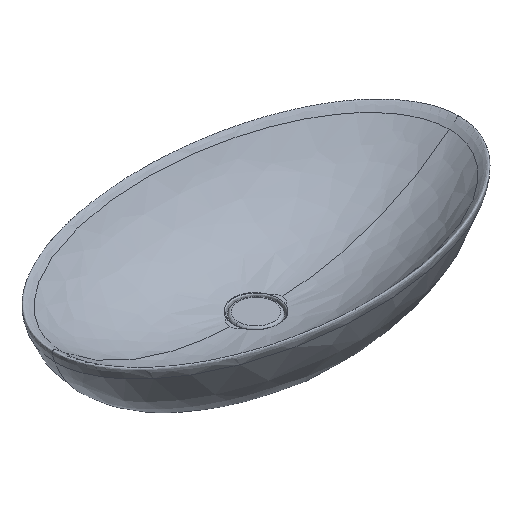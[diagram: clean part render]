
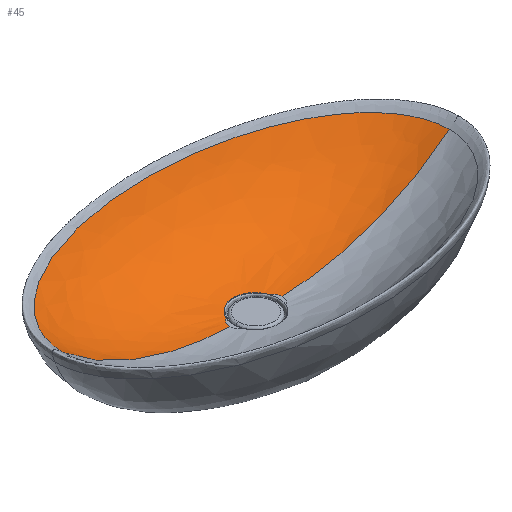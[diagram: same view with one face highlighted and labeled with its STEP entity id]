
A CAD part, isometric view. The second image highlights one B-rep face of the part: STEP entity #45.
In plain terms, the highlighted free-form (B-spline) face has degree [2, 3] with [5, 4] control points.
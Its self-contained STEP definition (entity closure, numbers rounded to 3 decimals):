
#45=ADVANCED_FACE('',(#63),#272,.T.);
#63=FACE_OUTER_BOUND('',#81,.T.);
#81=EDGE_LOOP('',(#133,#134,#135,#136,#137,#138,#139));
#133=ORIENTED_EDGE('',*,*,#187,.T.);
#134=ORIENTED_EDGE('',*,*,#193,.T.);
#135=ORIENTED_EDGE('',*,*,#175,.T.);
#136=ORIENTED_EDGE('',*,*,#176,.T.);
#137=ORIENTED_EDGE('',*,*,#170,.T.);
#138=ORIENTED_EDGE('',*,*,#178,.T.);
#139=ORIENTED_EDGE('',*,*,#186,.F.);
#170=EDGE_CURVE('',#247,#245,#203,.T.);
#175=EDGE_CURVE('',#250,#249,#215,.T.);
#176=EDGE_CURVE('',#249,#247,#216,.T.);
#178=EDGE_CURVE('',#245,#255,#218,.T.);
#186=EDGE_CURVE('',#254,#255,#225,.T.);
#187=EDGE_CURVE('',#254,#257,#226,.T.);
#193=EDGE_CURVE('',#257,#250,#231,.T.);
#203=B_SPLINE_CURVE_WITH_KNOTS('',3,(#1561,#1562,#1563,#1564,#1565,#1566,
#1567,#1568,#1569,#1570,#1571,#1572,#1573,#1574,#1575,#1576,#1577,#1578,
#1579,#1580,#1581,#1582,#1583,#1584,#1585,#1586,#1587,#1588,#1589,#1590,
#1591,#1592,#1593,#1594,#1595,#1596,#1597,#1598,#1599),.UNSPECIFIED.,.F.,
 .F.,(4,3,2,3,2,2,2,2,3,2,2,2,2,3,2,3,4),(0.,3.872,9.177,
14.483,18.353,22.223,29.967,37.712,
45.457,53.203,60.948,68.692,72.562,
76.432,81.738,87.043,90.915),
 .UNSPECIFIED.);
#215=(
BOUNDED_CURVE()
B_SPLINE_CURVE(3,(#1652,#1653,#1654,#1655),.UNSPECIFIED.,.F.,.F.)
B_SPLINE_CURVE_WITH_KNOTS((4,4),(38.313,65.694),
 .UNSPECIFIED.)
CURVE()
GEOMETRIC_REPRESENTATION_ITEM()
RATIONAL_B_SPLINE_CURVE((1.,0.957,0.957,1.))
REPRESENTATION_ITEM('')
);
#216=(
BOUNDED_CURVE()
B_SPLINE_CURVE(2,(#1656,#1657,#1658),.UNSPECIFIED.,.F.,.F.)
B_SPLINE_CURVE_WITH_KNOTS((3,3),(-6.283,-5.613),
 .UNSPECIFIED.)
CURVE()
GEOMETRIC_REPRESENTATION_ITEM()
RATIONAL_B_SPLINE_CURVE((1.,0.945,1.))
REPRESENTATION_ITEM('')
);
#218=(
BOUNDED_CURVE()
B_SPLINE_CURVE(2,(#1662,#1663,#1664),.UNSPECIFIED.,.F.,.F.)
B_SPLINE_CURVE_WITH_KNOTS((3,3),(-3.812,-3.142),
 .UNSPECIFIED.)
CURVE()
GEOMETRIC_REPRESENTATION_ITEM()
RATIONAL_B_SPLINE_CURVE((1.,0.945,1.))
REPRESENTATION_ITEM('')
);
#225=(
BOUNDED_CURVE()
B_SPLINE_CURVE(3,(#1705,#1706,#1707,#1708),.UNSPECIFIED.,.F.,.F.)
B_SPLINE_CURVE_WITH_KNOTS((4,4),(38.313,65.694),
 .UNSPECIFIED.)
CURVE()
GEOMETRIC_REPRESENTATION_ITEM()
RATIONAL_B_SPLINE_CURVE((1.,0.957,0.957,1.))
REPRESENTATION_ITEM('')
);
#226=(
BOUNDED_CURVE()
B_SPLINE_CURVE(2,(#1709,#1710,#1711),.UNSPECIFIED.,.F.,.F.)
B_SPLINE_CURVE_WITH_KNOTS((3,3),(3.142,3.142),
 .UNSPECIFIED.)
CURVE()
GEOMETRIC_REPRESENTATION_ITEM()
RATIONAL_B_SPLINE_CURVE((1.,1.,1.))
REPRESENTATION_ITEM('')
);
#231=(
BOUNDED_CURVE()
B_SPLINE_CURVE(2,(#1744,#1745,#1746,#1747,#1748),.UNSPECIFIED.,.F.,.F.)
B_SPLINE_CURVE_WITH_KNOTS((3,2,3),(3.142,4.712,6.283),
 .UNSPECIFIED.)
CURVE()
GEOMETRIC_REPRESENTATION_ITEM()
RATIONAL_B_SPLINE_CURVE((1.,0.707,1.,0.707,1.))
REPRESENTATION_ITEM('')
);
#245=VERTEX_POINT('',#1527);
#247=VERTEX_POINT('',#1529);
#249=VERTEX_POINT('',#1531);
#250=VERTEX_POINT('',#1532);
#254=VERTEX_POINT('',#1536);
#255=VERTEX_POINT('',#1537);
#257=VERTEX_POINT('',#1539);
#272=(
BOUNDED_SURFACE()
B_SPLINE_SURFACE(2,3,((#934,#935,#936,#937),(#938,#939,#940,#941),(#942,
#943,#944,#945),(#946,#947,#948,#949),(#950,#951,#952,#953)),
 .UNSPECIFIED.,.F.,.F.,.F.)
B_SPLINE_SURFACE_WITH_KNOTS((3,2,3),(4,4),(3.142,4.712,
6.283),(38.313,65.694),.UNSPECIFIED.)
GEOMETRIC_REPRESENTATION_ITEM()
RATIONAL_B_SPLINE_SURFACE(((1.,0.957,0.957,1.),
(0.707,0.677,0.677,0.707),
(1.,0.957,0.957,1.),(0.707,0.677,
0.677,0.707),(1.,0.957,0.957,
1.)))
REPRESENTATION_ITEM('')
SURFACE()
);
#934=CARTESIAN_POINT('',(335.651,0.,127.146));
#935=CARTESIAN_POINT('',(256.552,0.,61.071));
#936=CARTESIAN_POINT('',(155.602,0.,24.046));
#937=CARTESIAN_POINT('',(45.688,0.,20.797));
#938=CARTESIAN_POINT('',(335.651,190.499,127.146));
#939=CARTESIAN_POINT('',(256.552,145.606,61.071));
#940=CARTESIAN_POINT('',(155.602,88.312,24.046));
#941=CARTESIAN_POINT('',(45.688,25.93,20.797));
#942=CARTESIAN_POINT('',(0.,190.499,127.146));
#943=CARTESIAN_POINT('',(0.,145.606,61.071));
#944=CARTESIAN_POINT('',(0.,88.312,24.046));
#945=CARTESIAN_POINT('',(0.,25.93,20.797));
#946=CARTESIAN_POINT('',(-335.651,190.499,127.146));
#947=CARTESIAN_POINT('',(-256.552,145.606,61.071));
#948=CARTESIAN_POINT('',(-155.602,88.312,24.046));
#949=CARTESIAN_POINT('',(-45.688,25.93,20.797));
#950=CARTESIAN_POINT('',(-335.651,0.,127.146));
#951=CARTESIAN_POINT('',(-256.552,0.,61.071));
#952=CARTESIAN_POINT('',(-155.602,0.,24.046));
#953=CARTESIAN_POINT('',(-45.688,0.,20.797));
#1527=CARTESIAN_POINT('',(35.981,15.98,20.797));
#1529=CARTESIAN_POINT('',(-35.981,15.98,20.797));
#1531=CARTESIAN_POINT('',(-45.688,0.,20.797));
#1532=CARTESIAN_POINT('',(-335.651,0.,127.146));
#1536=CARTESIAN_POINT('',(335.651,0.,127.146));
#1537=CARTESIAN_POINT('',(45.688,0.,20.797));
#1539=CARTESIAN_POINT('',(335.651,0.,127.146));
#1561=CARTESIAN_POINT('',(-35.981,15.98,20.797));
#1562=CARTESIAN_POINT('',(-35.458,17.159,20.823));
#1563=CARTESIAN_POINT('',(-34.876,18.311,20.852));
#1564=CARTESIAN_POINT('',(-34.24,19.433,20.885));
#1565=CARTESIAN_POINT('',(-33.367,20.97,20.931));
#1566=CARTESIAN_POINT('',(-32.393,22.446,20.983));
#1567=CARTESIAN_POINT('',(-30.252,25.258,21.098));
#1568=CARTESIAN_POINT('',(-29.088,26.59,21.161));
#1569=CARTESIAN_POINT('',(-27.839,27.839,21.227));
#1570=CARTESIAN_POINT('',(-26.928,28.75,21.274));
#1571=CARTESIAN_POINT('',(-25.973,29.615,21.324));
#1572=CARTESIAN_POINT('',(-23.981,31.25,21.423));
#1573=CARTESIAN_POINT('',(-22.946,32.018,21.473));
#1574=CARTESIAN_POINT('',(-19.731,34.166,21.619));
#1575=CARTESIAN_POINT('',(-17.452,35.384,21.712));
#1576=CARTESIAN_POINT('',(-12.688,37.359,21.871));
#1577=CARTESIAN_POINT('',(-10.214,38.109,21.937));
#1578=CARTESIAN_POINT('',(-5.154,39.116,22.026));
#1579=CARTESIAN_POINT('',(-2.58,39.37,22.049));
#1580=CARTESIAN_POINT('',(0.,39.37,22.049));
#1581=CARTESIAN_POINT('',(2.58,39.37,22.049));
#1582=CARTESIAN_POINT('',(5.154,39.116,22.026));
#1583=CARTESIAN_POINT('',(10.214,38.109,21.937));
#1584=CARTESIAN_POINT('',(12.688,37.359,21.871));
#1585=CARTESIAN_POINT('',(17.452,35.384,21.712));
#1586=CARTESIAN_POINT('',(19.731,34.166,21.619));
#1587=CARTESIAN_POINT('',(22.946,32.018,21.473));
#1588=CARTESIAN_POINT('',(23.981,31.25,21.423));
#1589=CARTESIAN_POINT('',(25.973,29.615,21.324));
#1590=CARTESIAN_POINT('',(26.928,28.75,21.274));
#1591=CARTESIAN_POINT('',(27.839,27.839,21.227));
#1592=CARTESIAN_POINT('',(29.088,26.59,21.161));
#1593=CARTESIAN_POINT('',(30.252,25.258,21.098));
#1594=CARTESIAN_POINT('',(32.393,22.446,20.983));
#1595=CARTESIAN_POINT('',(33.367,20.97,20.931));
#1596=CARTESIAN_POINT('',(34.24,19.433,20.885));
#1597=CARTESIAN_POINT('',(34.876,18.311,20.852));
#1598=CARTESIAN_POINT('',(35.458,17.159,20.823));
#1599=CARTESIAN_POINT('',(35.981,15.98,20.797));
#1652=CARTESIAN_POINT('',(-335.651,0.,127.146));
#1653=CARTESIAN_POINT('',(-256.552,0.,61.071));
#1654=CARTESIAN_POINT('',(-155.602,0.,24.046));
#1655=CARTESIAN_POINT('',(-45.688,0.,20.797));
#1656=CARTESIAN_POINT('',(-45.688,0.,20.797));
#1657=CARTESIAN_POINT('',(-45.688,8.939,20.797));
#1658=CARTESIAN_POINT('',(-35.981,15.98,20.797));
#1662=CARTESIAN_POINT('',(35.981,15.98,20.797));
#1663=CARTESIAN_POINT('',(45.688,8.939,20.797));
#1664=CARTESIAN_POINT('',(45.688,0.,20.797));
#1705=CARTESIAN_POINT('',(335.651,0.,127.146));
#1706=CARTESIAN_POINT('',(256.552,0.,61.071));
#1707=CARTESIAN_POINT('',(155.602,0.,24.046));
#1708=CARTESIAN_POINT('',(45.688,0.,20.797));
#1709=CARTESIAN_POINT('',(335.651,0.,127.146));
#1710=CARTESIAN_POINT('',(335.651,0.,127.146));
#1711=CARTESIAN_POINT('',(335.651,0.,127.146));
#1744=CARTESIAN_POINT('',(335.651,0.,127.146));
#1745=CARTESIAN_POINT('',(335.651,190.499,127.146));
#1746=CARTESIAN_POINT('',(0.,190.499,127.146));
#1747=CARTESIAN_POINT('',(-335.651,190.499,127.146));
#1748=CARTESIAN_POINT('',(-335.651,0.,127.146));
